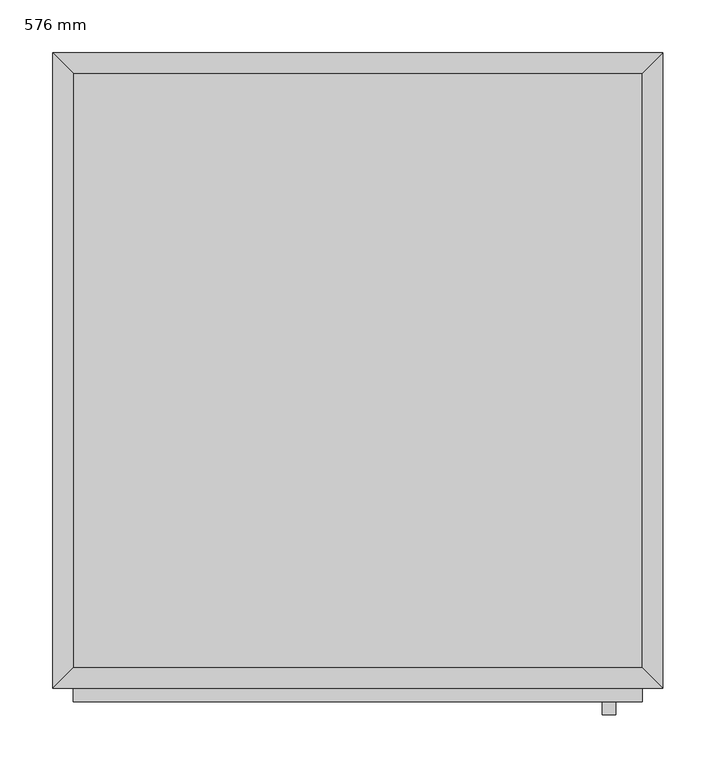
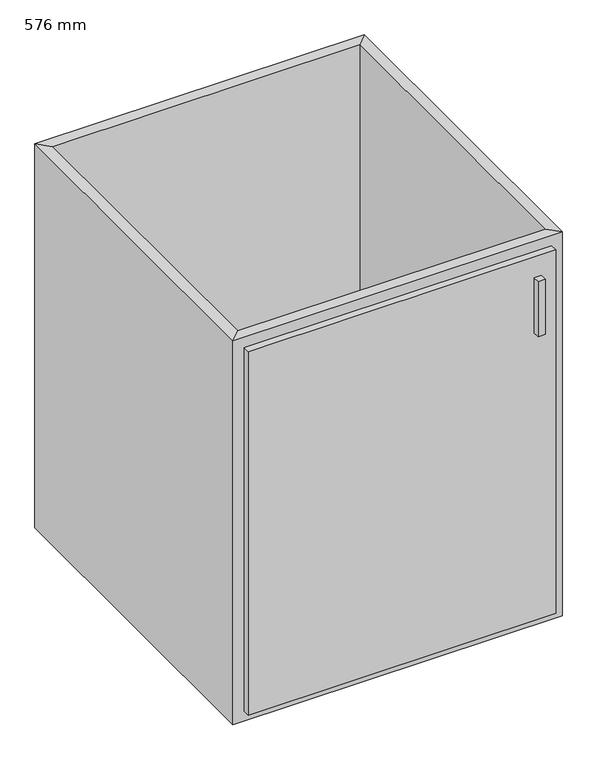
"""IFC4 building model written with IfcOpenShell, lengths in millimetres: furniture geometry, Armario-Una puerta : 576 mm."""

from ifc_helpers import new_model, si_unit, frame, origin, place, context, project, spatial, polyline, outline, extrude, faceted_brep, source, transform, mapped, element, save


def furniture_576_mm_2875afa3(model_context):
    return source(origin(), model_context, "Body", "SolidModel", [
        extrude(outline(polyline([(287.6877049, -19.05), (287.6877049, -580.95), (-250.2122951, -580.95), (-250.2122951, -19.05), (287.6877049, -19.05)])), frame((0.0, 0.0, 150.0), z_axis=(0.0, 0.0, 1.0), x_axis=(1.0, 0.0, 0.0)), (0.0, 0.0, 1.0), 19.05),
        faceted_brep([(287.6877049, -580.95, 860.0), (287.6877049, -580.95, 150.0), (-250.2122951, -580.95, 150.0), (-250.2122951, -580.95, 860.0), (306.7377049, -600.0, 860.0), (-269.2622951, -600.0, 860.0), (306.7377049, -600.0, 150.0), (-269.2622951, -600.0, 150.0), (-250.2122951, -19.05, 150.0), (-250.2122951, -19.05, 860.0), (-269.2622951, 0.0, 860.0), (-269.2622951, 0.0, 150.0), (287.6877049, -19.05, 150.0), (287.6877049, -19.05, 860.0), (306.7377049, 0.0, 860.0), (306.7377049, 0.0, 150.0)], [[[0, 1, 2, 3]], [[4, 0, 3, 5]], [[6, 4, 5, 7]], [[1, 6, 7, 2]], [[3, 2, 8, 9]], [[5, 3, 9, 10]], [[7, 5, 10, 11]], [[2, 7, 11, 8]], [[9, 8, 12, 13]], [[10, 9, 13, 14]], [[11, 10, 14, 15]], [[8, 11, 15, 12]], [[13, 12, 1, 0]], [[14, 13, 0, 4]], [[15, 14, 4, 6]], [[12, 15, 6, 1]]]),
        extrude(outline(polyline([(287.6877049, -612.7), (-250.2122951, -612.7), (-250.2122951, -600.0), (287.6877049, -600.0), (287.6877049, -612.7)])), frame((0.0, 0.0, 169.05), z_axis=(0.0, 0.0, 1.0), x_axis=(1.0, 0.0, 0.0)), (0.0, 0.0, 1.0), 671.9),
        extrude(outline(polyline([(262.2877049, -625.4), (249.5877049, -625.4), (249.5877049, -612.7), (262.2877049, -612.7), (262.2877049, -625.4)])), frame((0.0, 0.0, 701.25), z_axis=(0.0, 0.0, 1.0), x_axis=(1.0, 0.0, 0.0)), (0.0, 0.0, 1.0), 101.6),
    ])


if __name__ == "__main__":
    model = new_model("IFC4")
    model_context = context("Model", 3, world=origin())
    ifc_project = project(units=[si_unit("LENGTHUNIT", "METRE", prefix="MILLI")], contexts=[model_context])
    site = spatial("IfcSite", under=ifc_project)
    building = spatial("IfcBuilding", under=site)
    placement = place(None, origin())
    furniture_576_mm_shape = furniture_576_mm_2875afa3(model_context)
    element("IfcFurniture", 1, ObjectType="Armario-Una puerta : 576 mm", at=placement, inside=building, context=model_context, shape_type="MappedRepresentation", body=[
        mapped(furniture_576_mm_shape, transform((0.0, 0.0, 0.0), x_axis=(1.0, 0.0, 0.0), y_axis=(0.0, 1.0, 0.0), z_axis=(0.0, 0.0, 1.0))),
    ])
    save(model, "model.ifc")
